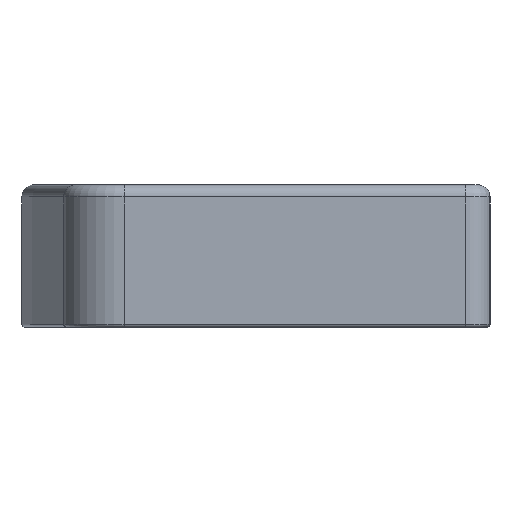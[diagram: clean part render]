
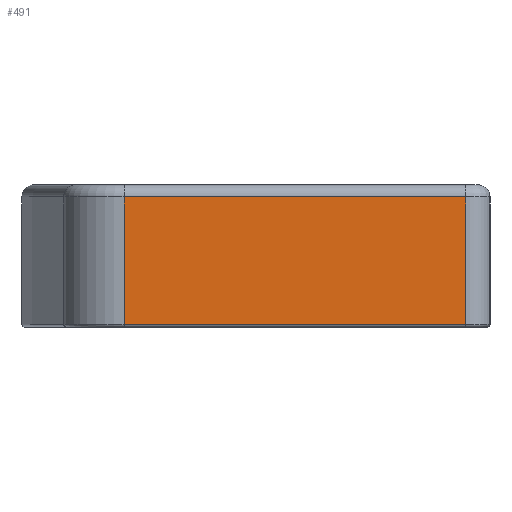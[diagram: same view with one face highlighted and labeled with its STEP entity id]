
A CAD part, left-side view. The second image highlights one B-rep face of the part: STEP entity #491.
In plain terms, the highlighted planar face has unit normal (-1, 0, 0).
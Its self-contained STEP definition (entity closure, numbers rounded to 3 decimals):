
#70 = CYLINDRICAL_SURFACE('',#71,3.252);
#71 = AXIS2_PLACEMENT_3D('',#72,#73,#74);
#72 = CARTESIAN_POINT('',(-96.748,3.252,0.));
#73 = DIRECTION('',(-0.,-0.,-1.));
#74 = DIRECTION('',(-1.,0.,0.));
#163 = EDGE_CURVE('',#164,#166,#168,.T.);
#164 = VERTEX_POINT('',#165);
#165 = CARTESIAN_POINT('',(-100.,3.252,0.407));
#166 = VERTEX_POINT('',#167);
#167 = CARTESIAN_POINT('',(-100.,3.252,17.344));
#168 = SURFACE_CURVE('',#169,(#173,#179),.PCURVE_S1.);
#169 = LINE('',#170,#171);
#170 = CARTESIAN_POINT('',(-100.,3.252,0.));
#171 = VECTOR('',#172,1.);
#172 = DIRECTION('',(0.,0.,1.));
#173 = PCURVE('',#70,#174);
#174 = DEFINITIONAL_REPRESENTATION('',(#175),#178);
#175 = B_SPLINE_CURVE_WITH_KNOTS('',1,(#176,#177),.UNSPECIFIED.,.F.,.F.,
  (2,2),(0.407,17.344),.PIECEWISE_BEZIER_KNOTS.);
#176 = CARTESIAN_POINT('',(0.,-0.407));
#177 = CARTESIAN_POINT('',(0.,-17.344));
#178 = ( GEOMETRIC_REPRESENTATION_CONTEXT(2) 
PARAMETRIC_REPRESENTATION_CONTEXT() REPRESENTATION_CONTEXT('2D SPACE',''
  ) );
#179 = PCURVE('',#180,#185);
#180 = PLANE('',#181);
#181 = AXIS2_PLACEMENT_3D('',#182,#183,#184);
#182 = CARTESIAN_POINT('',(-100.,48.723,0.));
#183 = DIRECTION('',(1.,0.,-0.));
#184 = DIRECTION('',(0.,-1.,0.));
#185 = DEFINITIONAL_REPRESENTATION('',(#186),#190);
#186 = LINE('',#187,#188);
#187 = CARTESIAN_POINT('',(45.471,0.));
#188 = VECTOR('',#189,1.);
#189 = DIRECTION('',(0.,-1.));
#190 = ( GEOMETRIC_REPRESENTATION_CONTEXT(2) 
PARAMETRIC_REPRESENTATION_CONTEXT() REPRESENTATION_CONTEXT('2D SPACE',''
  ) );
#491 = ADVANCED_FACE('',(#492),#180,.F.);
#492 = FACE_BOUND('',#493,.F.);
#493 = EDGE_LOOP('',(#494,#523,#548,#549));
#494 = ORIENTED_EDGE('',*,*,#495,.T.);
#495 = EDGE_CURVE('',#496,#498,#500,.T.);
#496 = VERTEX_POINT('',#497);
#497 = CARTESIAN_POINT('',(-100.,48.723,0.407));
#498 = VERTEX_POINT('',#499);
#499 = CARTESIAN_POINT('',(-100.,48.723,17.344));
#500 = SURFACE_CURVE('',#501,(#505,#512),.PCURVE_S1.);
#501 = LINE('',#502,#503);
#502 = CARTESIAN_POINT('',(-100.,48.723,0.));
#503 = VECTOR('',#504,1.);
#504 = DIRECTION('',(0.,0.,1.));
#505 = PCURVE('',#180,#506);
#506 = DEFINITIONAL_REPRESENTATION('',(#507),#511);
#507 = LINE('',#508,#509);
#508 = CARTESIAN_POINT('',(0.,0.));
#509 = VECTOR('',#510,1.);
#510 = DIRECTION('',(0.,-1.));
#511 = ( GEOMETRIC_REPRESENTATION_CONTEXT(2) 
PARAMETRIC_REPRESENTATION_CONTEXT() REPRESENTATION_CONTEXT('2D SPACE',''
  ) );
#512 = PCURVE('',#513,#518);
#513 = CYLINDRICAL_SURFACE('',#514,8.13);
#514 = AXIS2_PLACEMENT_3D('',#515,#516,#517);
#515 = CARTESIAN_POINT('',(-91.87,48.723,0.));
#516 = DIRECTION('',(-0.,-0.,-1.));
#517 = DIRECTION('',(-0.119,0.993,0.));
#518 = DEFINITIONAL_REPRESENTATION('',(#519),#522);
#519 = B_SPLINE_CURVE_WITH_KNOTS('',1,(#520,#521),.UNSPECIFIED.,.F.,.F.,
  (2,2),(0.407,17.344),.PIECEWISE_BEZIER_KNOTS.);
#520 = CARTESIAN_POINT('',(-1.452,-0.407));
#521 = CARTESIAN_POINT('',(-1.452,-17.344));
#522 = ( GEOMETRIC_REPRESENTATION_CONTEXT(2) 
PARAMETRIC_REPRESENTATION_CONTEXT() REPRESENTATION_CONTEXT('2D SPACE',''
  ) );
#523 = ORIENTED_EDGE('',*,*,#524,.T.);
#524 = EDGE_CURVE('',#498,#166,#525,.T.);
#525 = SURFACE_CURVE('',#526,(#530,#537),.PCURVE_S1.);
#526 = LINE('',#527,#528);
#527 = CARTESIAN_POINT('',(-100.,48.723,17.344));
#528 = VECTOR('',#529,1.);
#529 = DIRECTION('',(0.,-1.,0.));
#530 = PCURVE('',#180,#531);
#531 = DEFINITIONAL_REPRESENTATION('',(#532),#536);
#532 = LINE('',#533,#534);
#533 = CARTESIAN_POINT('',(0.,-17.344));
#534 = VECTOR('',#535,1.);
#535 = DIRECTION('',(1.,0.));
#536 = ( GEOMETRIC_REPRESENTATION_CONTEXT(2) 
PARAMETRIC_REPRESENTATION_CONTEXT() REPRESENTATION_CONTEXT('2D SPACE',''
  ) );
#537 = PCURVE('',#538,#543);
#538 = CYLINDRICAL_SURFACE('',#539,1.626);
#539 = AXIS2_PLACEMENT_3D('',#540,#541,#542);
#540 = CARTESIAN_POINT('',(-98.374,48.723,
    17.344));
#541 = DIRECTION('',(0.,-1.,0.));
#542 = DIRECTION('',(-1.,-0.,0.));
#543 = DEFINITIONAL_REPRESENTATION('',(#544),#547);
#544 = B_SPLINE_CURVE_WITH_KNOTS('',1,(#545,#546),.UNSPECIFIED.,.F.,.F.,
  (2,2),(0.,45.471),.PIECEWISE_BEZIER_KNOTS.);
#545 = CARTESIAN_POINT('',(0.,0.));
#546 = CARTESIAN_POINT('',(0.,45.471));
#547 = ( GEOMETRIC_REPRESENTATION_CONTEXT(2) 
PARAMETRIC_REPRESENTATION_CONTEXT() REPRESENTATION_CONTEXT('2D SPACE',''
  ) );
#548 = ORIENTED_EDGE('',*,*,#163,.F.);
#549 = ORIENTED_EDGE('',*,*,#550,.F.);
#550 = EDGE_CURVE('',#496,#164,#551,.T.);
#551 = SURFACE_CURVE('',#552,(#556,#563),.PCURVE_S1.);
#552 = LINE('',#553,#554);
#553 = CARTESIAN_POINT('',(-100.,48.723,0.407));
#554 = VECTOR('',#555,1.);
#555 = DIRECTION('',(0.,-1.,0.));
#556 = PCURVE('',#180,#557);
#557 = DEFINITIONAL_REPRESENTATION('',(#558),#562);
#558 = LINE('',#559,#560);
#559 = CARTESIAN_POINT('',(0.,-0.407));
#560 = VECTOR('',#561,1.);
#561 = DIRECTION('',(1.,0.));
#562 = ( GEOMETRIC_REPRESENTATION_CONTEXT(2) 
PARAMETRIC_REPRESENTATION_CONTEXT() REPRESENTATION_CONTEXT('2D SPACE',''
  ) );
#563 = PCURVE('',#564,#569);
#564 = CYLINDRICAL_SURFACE('',#565,0.407);
#565 = AXIS2_PLACEMENT_3D('',#566,#567,#568);
#566 = CARTESIAN_POINT('',(-99.593,48.723,
    0.407));
#567 = DIRECTION('',(0.,-1.,0.));
#568 = DIRECTION('',(-1.,-0.,0.));
#569 = DEFINITIONAL_REPRESENTATION('',(#570),#573);
#570 = B_SPLINE_CURVE_WITH_KNOTS('',1,(#571,#572),.UNSPECIFIED.,.F.,.F.,
  (2,2),(0.,45.471),.PIECEWISE_BEZIER_KNOTS.);
#571 = CARTESIAN_POINT('',(0.,0.));
#572 = CARTESIAN_POINT('',(0.,45.471));
#573 = ( GEOMETRIC_REPRESENTATION_CONTEXT(2) 
PARAMETRIC_REPRESENTATION_CONTEXT() REPRESENTATION_CONTEXT('2D SPACE',''
  ) );
